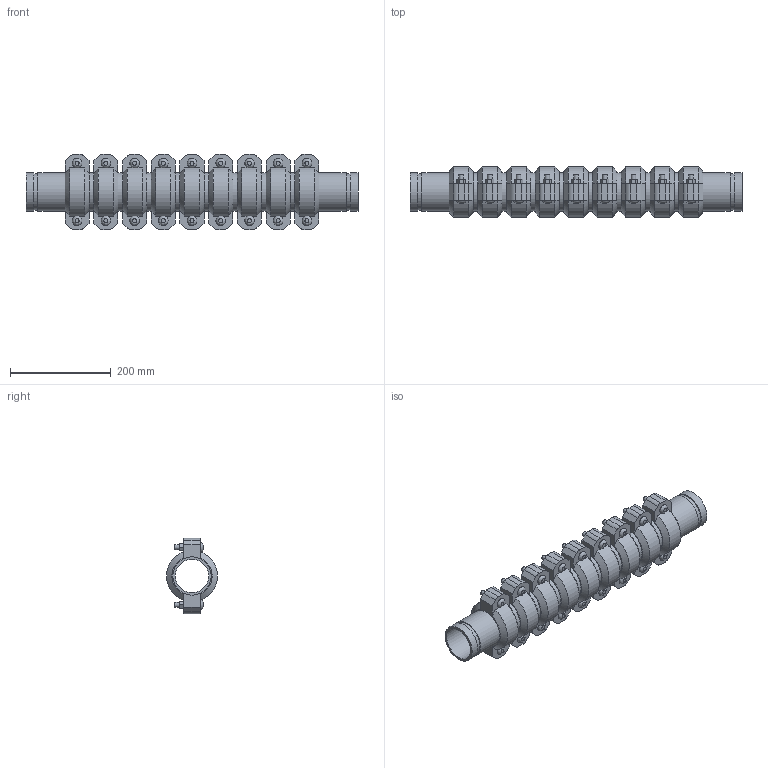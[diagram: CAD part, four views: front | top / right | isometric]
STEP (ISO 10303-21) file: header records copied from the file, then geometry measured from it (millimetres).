
FILE_DESCRIPTION(/* description */ ('VIC EXPANSION JOINT 9 COUPLINGS COMPRESSED STYLE 155 (OGS)','CAx-IF Rec.Pracs.---Representation and Presentation of Product Manufacturing Information (PMI)---4.0---2014-10-13'),/* implementation_level */ '2;1');
FILE_NAME(/* name */ 'C:\Users\kkamble\AppData\Roaming\Autodesk\ApplicationPlugins\Victaulic.Temp\A901\Victaulic_IPS_Expansion Joint_Compressed_9 Couplings_Style 155 (OGS)_02.5 (76.1) (65).stp',/* time_stamp */ '2021-06-27T00:38:19+02:00',/* author */ ('kkamble'),/* organization */ ('Victaulic'),/* preprocessor_version */ 'ST-DEVELOPER v17.2',/* originating_system */ 'Autodesk Inventor 2019',/* authorisation */ '');
FILE_SCHEMA (('AP242_MANAGED_MODEL_BASED_3D_ENGINEERING_MIM_LF { 1 0 10303 442 1 1 4 }'));
Length unit declared in the file: inch
Products named in the file (4): 155-02.5 (76.1); Nipple-02.5 (76.1); Nipple-02.5 (76.1)_1; 075-02.5 (76.1)
Assembly tree (19 placements, depth 2):
  155-02.5 (76.1)
    Nipple-02.5 (76.1)  x2
    Nipple-02.5 (76.1)_1  x8
    075-02.5 (76.1)  x9
Bounding box: 660.4 x 101.25 x 149.86 mm (x, y, z)
Volume: 2614012.9 mm3; surface area: 729703.9 mm2
Topology: 19 solids, 37 shells, 597 faces, 1479 edges, 1032 vertices
Faces by surface type: plane 366, cylinder 177, cone 36, bspline 18
Full cylindrical faces by diameter (mm): 9.525 x36, 11.43 x18, 66.65 x10, 72.263 x20, 76.2 x39
Entity records: 2821 total; most frequent: CARTESIAN_POINT 521, DIRECTION 465, ORIENTED_EDGE 382, EDGE_CURVE 191, AXIS2_PLACEMENT_3D 186, VERTEX_POINT 136, EDGE_LOOP 99, LINE 93
